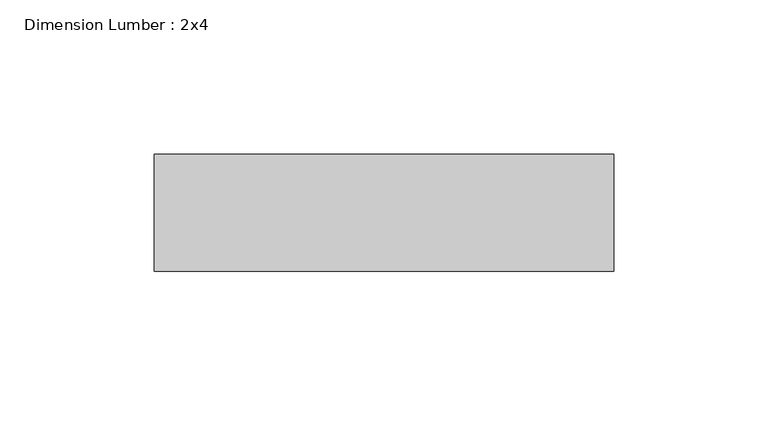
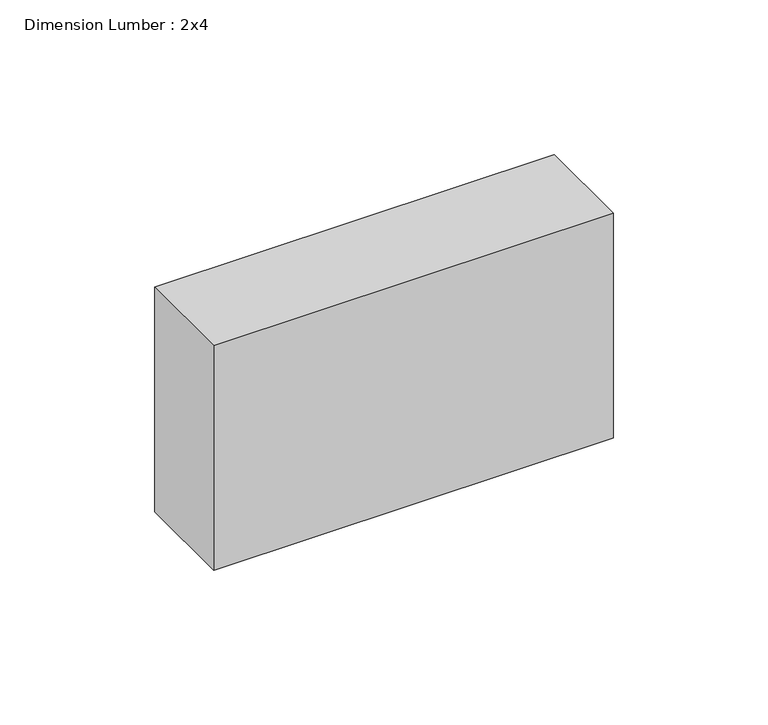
"""IFC4 building model written with IfcOpenShell, lengths in millimetres: beam geometry, Dimension Lumber : 2x4."""

from ifc_helpers import new_model, si_unit, frame, origin, place, context, project, spatial, polyline, outline, extrude, source, transform, mapped, element, save


def dimension_lumber_2x4_8f77fd17(model_context):
    return source(origin(), model_context, "Body", "SweptSolid", [
        extrude(outline(polyline([(74.6163141, 19.05), (74.6163141, -19.05), (-74.6163141, -19.05), (-74.6163141, 19.05), (74.6163141, 19.05)])), frame((0.0, 0.0, -44.45), z_axis=(0.0, 0.0, 1.0), x_axis=(1.0, 0.0, 0.0)), (0.0, 0.0, 1.0), 88.9),
    ])


if __name__ == "__main__":
    model = new_model("IFC4")
    model_context = context("Model", 3, world=origin())
    ifc_project = project(units=[si_unit("LENGTHUNIT", "METRE", prefix="MILLI")], contexts=[model_context])
    site = spatial("IfcSite", under=ifc_project)
    building = spatial("IfcBuilding", under=site)
    placement = place(None, origin())
    dimension_lumber_2x4_shape = dimension_lumber_2x4_8f77fd17(model_context)
    element("IfcBeam", 1, ObjectType="Dimension Lumber : 2x4", at=placement, inside=building, context=model_context, shape_type="MappedRepresentation", body=[
        mapped(dimension_lumber_2x4_shape, transform((0.0, 0.0, 0.0), x_axis=(1.0, 0.0, 0.0), y_axis=(0.0, 1.0, 0.0), z_axis=(0.0, 0.0, 1.0))),
    ])
    save(model, "model.ifc")
